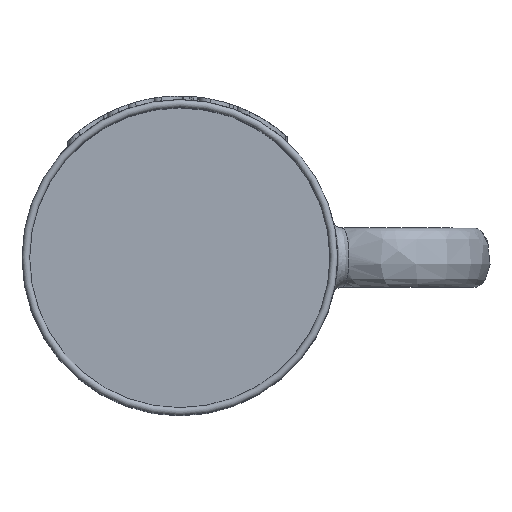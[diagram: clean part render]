
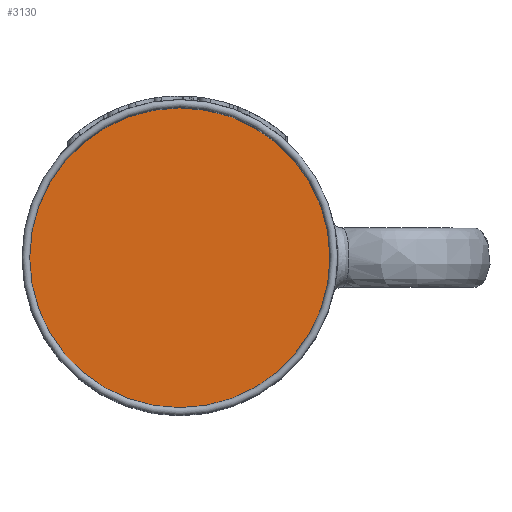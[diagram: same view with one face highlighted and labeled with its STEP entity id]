
A CAD part, top view. The second image highlights one B-rep face of the part: STEP entity #3130.
In plain terms, the highlighted planar face has unit normal (0, 0, 1).
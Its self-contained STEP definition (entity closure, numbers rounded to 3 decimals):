
#83=PLANE('',#3395);
#687=FACE_OUTER_BOUND('',#881,.T.);
#881=EDGE_LOOP('',(#2881));
#965=CIRCLE('',#3394,39.5);
#1459=VERTEX_POINT('',#8449);
#1933=EDGE_CURVE('',#1459,#1459,#965,.T.);
#2881=ORIENTED_EDGE('',*,*,#1933,.F.);
#3130=ADVANCED_FACE('',(#687),#83,.T.);
#3394=AXIS2_PLACEMENT_3D('',#8451,#4030,#4031);
#3395=AXIS2_PLACEMENT_3D('',#8452,#4032,#4033);
#4030=DIRECTION('center_axis',(0.,0.,-1.));
#4031=DIRECTION('ref_axis',(1.,0.,0.));
#4032=DIRECTION('center_axis',(0.,0.,1.));
#4033=DIRECTION('ref_axis',(1.,0.,0.));
#8449=CARTESIAN_POINT('',(-39.5,0.,7.));
#8451=CARTESIAN_POINT('Origin',(0.,0.,7.));
#8452=CARTESIAN_POINT('Origin',(0.,0.,7.));
